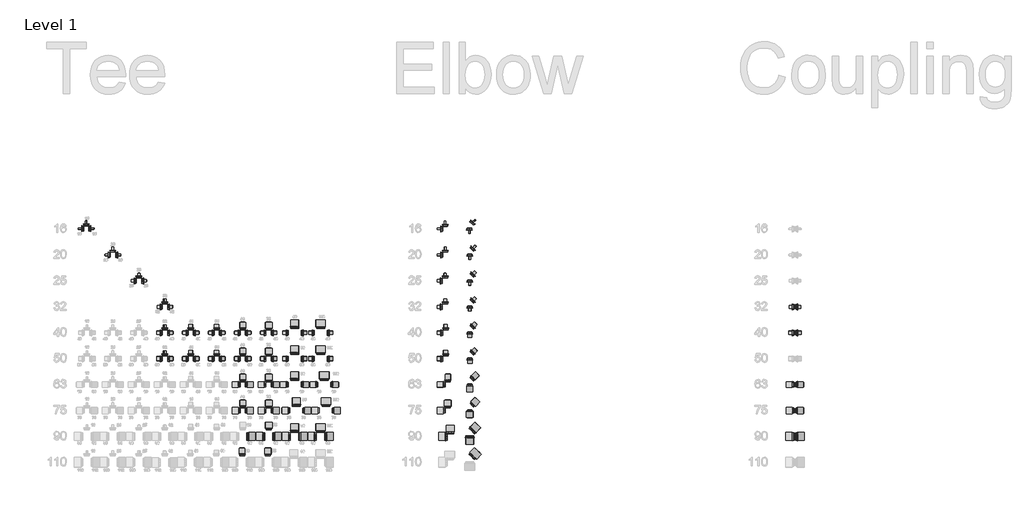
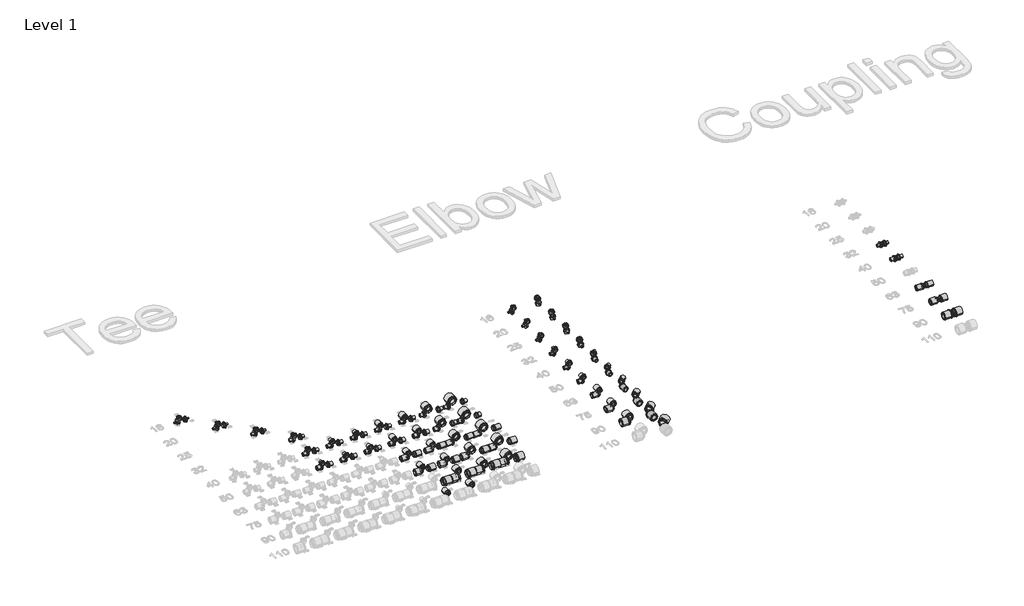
# One storey, part 3 of 58: 137 pipe fittings.
"""IFC4 building model written with IfcOpenShell, lengths in millimetres."""

from ifc_helpers import new_model, si_unit, origin, place, context, project, spatial, transform, mapped, element, save
from components import rs_adapter_8da40ca7, rs_adapter_b4bbd465, rs_adapter_f82712ed, rs_adapter_ef84fdb0, rs_adapter_c6cd646c, rs_adapter_ed761ce0, rs_adapter_634e7d73, rs_adapter_fc67200b, rs_adapter_b700a1d7, rs_adapter_1ad0a11d

model = new_model("IFC4")

# Units and contexts
model_context = context("Model", 3, world=origin())
ifc_project = project(units=[si_unit("LENGTHUNIT", "METRE", prefix="MILLI")], contexts=[model_context])

# Site, building, storey
site = spatial("IfcSite", under=ifc_project)
building = spatial("IfcBuilding", under=site)
storey = spatial("IfcBuildingStorey", under=building, Name="Level 1", Elevation=27.3876384)

# Pipe fittings
placement = place(None, origin())
rs_adapter_shape = rs_adapter_8da40ca7(model_context)
element("IfcPipeFitting", 1, ObjectType="RS Adapter : Superpipe RS Press Adapter", at=placement, inside=storey, context=model_context, shape_type="MappedRepresentation", body=[
    mapped(rs_adapter_shape, transform((15965.8568613, 16294.8081159, 27.3876384), x_axis=(0.0, 1.0000000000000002, 0.0), y_axis=(1.0000000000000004, 0.0, 0.0), z_axis=(0.0, 0.0, -1.0000000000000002))),
])
element("IfcPipeFitting", 2, ObjectType="RS Adapter : Superpipe RS Press Adapter", at=placement, inside=storey, context=model_context, shape_type="MappedRepresentation", body=[
    mapped(rs_adapter_shape, transform((15965.8568613, 17494.8081159, 27.3876384), x_axis=(0.0, 1.0000000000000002, 0.0), y_axis=(1.0000000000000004, 0.0, 0.0), z_axis=(0.0, 0.0, -1.0000000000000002))),
])
element("IfcPipeFitting", 3, ObjectType="RS Adapter : Superpipe RS Press Adapter", at=placement, inside=storey, context=model_context, shape_type="MappedRepresentation", body=[
    mapped(rs_adapter_shape, transform((15965.8568613, 17194.8081159, 27.3876384), x_axis=(0.0, 1.0000000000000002, 0.0), y_axis=(1.0000000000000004, 0.0, 0.0), z_axis=(0.0, 0.0, -1.0000000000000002))),
])
element("IfcPipeFitting", 4, ObjectType="RS Adapter : Superpipe RS Press Adapter", at=placement, inside=storey, context=model_context, shape_type="MappedRepresentation", body=[
    mapped(rs_adapter_shape, transform((16007.843642, 16894.8081159, 27.3876384), x_axis=(0.0, 1.0000000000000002, 0.0), y_axis=(1.0000000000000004, 0.0, 0.0), z_axis=(0.0, 0.0, -1.0000000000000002))),
])
element("IfcPipeFitting", 5, ObjectType="RS Adapter : Superpipe RS Press Adapter", at=placement, inside=storey, context=model_context, shape_type="MappedRepresentation", body=[
    mapped(rs_adapter_shape, transform((16027.8568613, 16594.8081159, 27.3876384), x_axis=(0.0, 1.0000000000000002, 0.0), y_axis=(1.0000000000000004, 0.0, 0.0), z_axis=(0.0, 0.0, -1.0000000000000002))),
])
element("IfcPipeFitting", 6, ObjectType="RS Adapter : Superpipe RS Press Adapter", at=placement, inside=storey, context=model_context, shape_type="MappedRepresentation", body=[
    mapped(rs_adapter_shape, transform((17713.0198773, 16009.6140039, 27.3876384), x_axis=(0.7071067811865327, 0.707106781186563, 0.0), y_axis=(-0.7071067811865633, 0.707106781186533, 0.0), z_axis=(0.0, 0.0, 1.0000000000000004))),
])
rs_adapter_2_shape = rs_adapter_b4bbd465(model_context)
element("IfcPipeFitting", 7, ObjectType="RS Adapter : Superpipe RS Press Adapter", at=placement, inside=storey, context=model_context, shape_type="MappedRepresentation", body=[
    mapped(rs_adapter_2_shape, transform((13226.6015571, 18650.4212972, 27.3876384), x_axis=(-1.0, 0.0, 0.0), y_axis=(0.0, 1.0, 0.0), z_axis=(0.0, 0.0, -1.0))),
])
element("IfcPipeFitting", 8, ObjectType="RS Adapter : Superpipe RS Press Adapter", at=placement, inside=storey, context=model_context, shape_type="MappedRepresentation", body=[
    mapped(rs_adapter_2_shape, transform((13257.6015571, 18681.4212972, 27.3876384), x_axis=(0.0, 1.0000000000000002, 0.0), y_axis=(1.0000000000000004, 0.0, 0.0), z_axis=(0.0, 0.0, -1.0000000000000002))),
])
element("IfcPipeFitting", 9, ObjectType="RS Adapter : Superpipe RS Press Adapter", at=placement, inside=storey, context=model_context, shape_type="MappedRepresentation", body=[
    mapped(rs_adapter_2_shape, transform((13288.6015571, 18650.4212972, 27.3876384), x_axis=(1.0000000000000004, 0.0, 0.0), y_axis=(0.0, -1.0000000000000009, 0.0), z_axis=(0.0, 0.0, -1.0000000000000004))),
])
element("IfcPipeFitting", 10, ObjectType="RS Adapter : Superpipe RS Press Adapter", at=placement, inside=storey, context=model_context, shape_type="MappedRepresentation", body=[
    mapped(rs_adapter_2_shape, transform((17405.8568613, 18677.8081159, 27.3876384), x_axis=(0.0, 1.000000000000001, 0.0), y_axis=(-1.0000000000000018, 0.0, 0.0), z_axis=(0.0, 0.0, 1.0000000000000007))),
])
element("IfcPipeFitting", 11, ObjectType="RS Adapter : Superpipe RS Press Adapter", at=placement, inside=storey, context=model_context, shape_type="MappedRepresentation", body=[
    mapped(rs_adapter_2_shape, transform((17374.8568613, 18646.8081159, 27.3876384), x_axis=(-1.0000000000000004, 0.0, 0.0), y_axis=(0.0, -1.0000000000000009, 0.0), z_axis=(0.0, 0.0, 1.0000000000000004))),
])
element("IfcPipeFitting", 12, ObjectType="RS Adapter : Superpipe RS Press Adapter", at=placement, inside=storey, context=model_context, shape_type="MappedRepresentation", body=[
    mapped(rs_adapter_2_shape, transform((17685.7955265, 18654.8896532, 27.3876384), x_axis=(0.0, -1.000000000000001, 0.0), y_axis=(1.0000000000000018, 0.0, 0.0), z_axis=(0.0, 0.0, 1.0000000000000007))),
])
element("IfcPipeFitting", 13, ObjectType="RS Adapter : Superpipe RS Press Adapter", at=placement, inside=storey, context=model_context, shape_type="MappedRepresentation", body=[
    mapped(rs_adapter_2_shape, transform((17709.5198773, 18709.6140039, 27.3876384), x_axis=(0.7071067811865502, 0.7071067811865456, 0.0), y_axis=(-0.7071067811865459, 0.7071067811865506, 0.0), z_axis=(0.0, 0.0, 1.0000000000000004))),
])
rs_adapter_3_shape = rs_adapter_f82712ed(model_context)
element("IfcPipeFitting", 14, ObjectType="RS Adapter : Superpipe RS Press Adapter", at=placement, inside=storey, context=model_context, shape_type="MappedRepresentation", body=[
    mapped(rs_adapter_3_shape, transform((13534.8568613, 18346.8081159, 27.3876384), x_axis=(-1.0, 0.0, 0.0), y_axis=(0.0, 1.0, 0.0), z_axis=(0.0, 0.0, -1.0))),
])
element("IfcPipeFitting", 15, ObjectType="RS Adapter : Superpipe RS Press Adapter", at=placement, inside=storey, context=model_context, shape_type="MappedRepresentation", body=[
    mapped(rs_adapter_3_shape, transform((13565.8568613, 18377.8081159, 27.3876384), x_axis=(0.0, 1.0000000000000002, 0.0), y_axis=(1.0000000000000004, 0.0, 0.0), z_axis=(0.0, 0.0, -1.0000000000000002))),
])
element("IfcPipeFitting", 16, ObjectType="RS Adapter : Superpipe RS Press Adapter", at=placement, inside=storey, context=model_context, shape_type="MappedRepresentation", body=[
    mapped(rs_adapter_3_shape, transform((13596.8568613, 18346.8081159, 27.3876384), x_axis=(1.0000000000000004, 0.0, 0.0), y_axis=(0.0, -1.0000000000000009, 0.0), z_axis=(0.0, 0.0, -1.0000000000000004))),
])
element("IfcPipeFitting", 17, ObjectType="RS Adapter : Superpipe RS Press Adapter", at=placement, inside=storey, context=model_context, shape_type="MappedRepresentation", body=[
    mapped(rs_adapter_3_shape, transform((17406.8568613, 18377.8081159, 27.3876384), x_axis=(0.0, 1.000000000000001, 0.0), y_axis=(-1.0000000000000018, 0.0, 0.0), z_axis=(0.0, 0.0, 1.0000000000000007))),
])
element("IfcPipeFitting", 18, ObjectType="RS Adapter : Superpipe RS Press Adapter", at=placement, inside=storey, context=model_context, shape_type="MappedRepresentation", body=[
    mapped(rs_adapter_3_shape, transform((17375.8568613, 18346.8081159, 27.3876384), x_axis=(-1.0000000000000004, 0.0, 0.0), y_axis=(0.0, -1.0000000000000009, 0.0), z_axis=(0.0, 0.0, 1.0000000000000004))),
])
element("IfcPipeFitting", 19, ObjectType="RS Adapter : Superpipe RS Press Adapter", at=placement, inside=storey, context=model_context, shape_type="MappedRepresentation", body=[
    mapped(rs_adapter_3_shape, transform((17689.2955265, 18354.8896532, 27.3876384), x_axis=(0.0, -1.000000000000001, 0.0), y_axis=(1.0000000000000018, 0.0, 0.0), z_axis=(0.0, 0.0, 1.0000000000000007))),
])
element("IfcPipeFitting", 20, ObjectType="RS Adapter : Superpipe RS Press Adapter", at=placement, inside=storey, context=model_context, shape_type="MappedRepresentation", body=[
    mapped(rs_adapter_3_shape, transform((17713.0198773, 18409.6140039, 27.3876384), x_axis=(0.7071067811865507, 0.7071067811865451, 0.0), y_axis=(-0.7071067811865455, 0.707106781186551, 0.0), z_axis=(0.0, 0.0, 1.0000000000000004))),
])
rs_adapter_4_shape = rs_adapter_ef84fdb0(model_context)
element("IfcPipeFitting", 21, ObjectType="RS Adapter : Superpipe RS Press Adapter", at=placement, inside=storey, context=model_context, shape_type="MappedRepresentation", body=[
    mapped(rs_adapter_4_shape, transform((13834.8568613, 18046.8081159, 27.3876384), x_axis=(-1.0, 0.0, 0.0), y_axis=(0.0, 1.0, 0.0), z_axis=(0.0, 0.0, -1.0))),
])
element("IfcPipeFitting", 22, ObjectType="RS Adapter : Superpipe RS Press Adapter", at=placement, inside=storey, context=model_context, shape_type="MappedRepresentation", body=[
    mapped(rs_adapter_4_shape, transform((13865.8568613, 18077.8081159, 27.3876384), x_axis=(0.0, 1.0000000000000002, 0.0), y_axis=(1.0000000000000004, 0.0, 0.0), z_axis=(0.0, 0.0, -1.0000000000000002))),
])
element("IfcPipeFitting", 23, ObjectType="RS Adapter : Superpipe RS Press Adapter", at=placement, inside=storey, context=model_context, shape_type="MappedRepresentation", body=[
    mapped(rs_adapter_4_shape, transform((13896.8568613, 18046.8081159, 27.3876384), x_axis=(1.0000000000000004, 0.0, 0.0), y_axis=(0.0, -1.0000000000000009, 0.0), z_axis=(0.0, 0.0, -1.0000000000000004))),
])
element("IfcPipeFitting", 24, ObjectType="RS Adapter : Superpipe RS Press Adapter", at=placement, inside=storey, context=model_context, shape_type="MappedRepresentation", body=[
    mapped(rs_adapter_4_shape, transform((17403.8568613, 18077.8081159, 27.3876384), x_axis=(0.0, 1.000000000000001, 0.0), y_axis=(-1.0000000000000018, 0.0, 0.0), z_axis=(0.0, 0.0, 1.0000000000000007))),
])
element("IfcPipeFitting", 25, ObjectType="RS Adapter : Superpipe RS Press Adapter", at=placement, inside=storey, context=model_context, shape_type="MappedRepresentation", body=[
    mapped(rs_adapter_4_shape, transform((17372.8568613, 18046.8081159, 27.3876384), x_axis=(-1.0000000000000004, 0.0, 0.0), y_axis=(0.0, -1.0000000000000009, 0.0), z_axis=(0.0, 0.0, 1.0000000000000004))),
])
element("IfcPipeFitting", 26, ObjectType="RS Adapter : Superpipe RS Press Adapter", at=placement, inside=storey, context=model_context, shape_type="MappedRepresentation", body=[
    mapped(rs_adapter_4_shape, transform((17689.2955265, 18054.8896532, 27.3876384), x_axis=(0.0, -1.0000000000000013, 0.0), y_axis=(1.0000000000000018, 0.0, 0.0), z_axis=(0.0, 0.0, 1.0000000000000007))),
])
element("IfcPipeFitting", 27, ObjectType="RS Adapter : Superpipe RS Press Adapter", at=placement, inside=storey, context=model_context, shape_type="MappedRepresentation", body=[
    mapped(rs_adapter_4_shape, transform((17713.0198773, 18109.6140039, 27.3876384), x_axis=(0.7071067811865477, 0.7071067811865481, 0.0), y_axis=(-0.7071067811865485, 0.707106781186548, 0.0), z_axis=(0.0, 0.0, 1.0000000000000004))),
])
rs_adapter_5_shape = rs_adapter_c6cd646c(model_context)
element("IfcPipeFitting", 28, ObjectType="RS Adapter : Superpipe RS Press Adapter", at=placement, inside=storey, context=model_context, shape_type="MappedRepresentation", body=[
    mapped(rs_adapter_5_shape, transform((15113.8568613, 16246.8081159, 27.3876384), x_axis=(1.0000000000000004, 0.0, 0.0), y_axis=(0.0, -1.0000000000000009, 0.0), z_axis=(0.0, 0.0, -1.0000000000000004))),
])
element("IfcPipeFitting", 29, ObjectType="RS Adapter : Superpipe RS Press Adapter", at=placement, inside=storey, context=model_context, shape_type="MappedRepresentation", body=[
    mapped(rs_adapter_5_shape, transform((15317.8568613, 16246.8081159, 27.3876384), x_axis=(-1.0, 0.0, 0.0), y_axis=(0.0, 1.0, 0.0), z_axis=(0.0, 0.0, -1.0))),
])
element("IfcPipeFitting", 30, ObjectType="RS Adapter : Superpipe RS Press Adapter", at=placement, inside=storey, context=model_context, shape_type="MappedRepresentation", body=[
    mapped(rs_adapter_5_shape, transform((15413.8568613, 16246.8081159, 27.3876384), x_axis=(1.0000000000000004, 0.0, 0.0), y_axis=(0.0, -1.0000000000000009, 0.0), z_axis=(0.0, 0.0, -1.0000000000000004))),
])
element("IfcPipeFitting", 31, ObjectType="RS Adapter : Superpipe RS Press Adapter", at=placement, inside=storey, context=model_context, shape_type="MappedRepresentation", body=[
    mapped(rs_adapter_5_shape, transform((15617.8568613, 16246.8081159, 27.3876384), x_axis=(-1.0, 0.0, 0.0), y_axis=(0.0, 1.0, 0.0), z_axis=(0.0, 0.0, -1.0))),
])
element("IfcPipeFitting", 32, ObjectType="RS Adapter : Superpipe RS Press Adapter", at=placement, inside=storey, context=model_context, shape_type="MappedRepresentation", body=[
    mapped(rs_adapter_5_shape, transform((15665.8568613, 16294.8081159, 27.3876384), x_axis=(0.0, 1.0000000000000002, 0.0), y_axis=(1.0000000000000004, 0.0, 0.0), z_axis=(0.0, 0.0, -1.0000000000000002))),
])
element("IfcPipeFitting", 33, ObjectType="RS Adapter : Superpipe RS Press Adapter", at=placement, inside=storey, context=model_context, shape_type="MappedRepresentation", body=[
    mapped(rs_adapter_5_shape, transform((15713.8568613, 16246.8081159, 27.3876384), x_axis=(1.0000000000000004, 0.0, 0.0), y_axis=(0.0, -1.0000000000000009, 0.0), z_axis=(0.0, 0.0, -1.0000000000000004))),
])
element("IfcPipeFitting", 34, ObjectType="RS Adapter : Superpipe RS Press Adapter", at=placement, inside=storey, context=model_context, shape_type="MappedRepresentation", body=[
    mapped(rs_adapter_5_shape, transform((15917.8568613, 16246.8081159, 27.3876384), x_axis=(-1.0, 0.0, 0.0), y_axis=(0.0, 1.0, 0.0), z_axis=(0.0, 0.0, -1.0))),
])
element("IfcPipeFitting", 35, ObjectType="RS Adapter : Superpipe RS Press Adapter", at=placement, inside=storey, context=model_context, shape_type="MappedRepresentation", body=[
    mapped(rs_adapter_5_shape, transform((16013.8568613, 16246.8081159, 27.3876384), x_axis=(1.0000000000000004, 0.0, 0.0), y_axis=(0.0, -1.0000000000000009, 0.0), z_axis=(0.0, 0.0, -1.0000000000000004))),
])
element("IfcPipeFitting", 36, ObjectType="RS Adapter : Superpipe RS Press Adapter", at=placement, inside=storey, context=model_context, shape_type="MappedRepresentation", body=[
    mapped(rs_adapter_5_shape, transform((15685.8568613, 16594.8081159, 27.3876384), x_axis=(0.0, 1.0000000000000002, 0.0), y_axis=(1.0000000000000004, 0.0, 0.0), z_axis=(0.0, 0.0, -1.0000000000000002))),
])
element("IfcPipeFitting", 37, ObjectType="RS Adapter : Superpipe RS Press Adapter", at=placement, inside=storey, context=model_context, shape_type="MappedRepresentation", body=[
    mapped(rs_adapter_5_shape, transform((15665.8568613, 17494.8081159, 27.3876384), x_axis=(0.0, 1.0000000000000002, 0.0), y_axis=(1.0000000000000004, 0.0, 0.0), z_axis=(0.0, 0.0, -1.0000000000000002))),
])
element("IfcPipeFitting", 38, ObjectType="RS Adapter : Superpipe RS Press Adapter", at=placement, inside=storey, context=model_context, shape_type="MappedRepresentation", body=[
    mapped(rs_adapter_5_shape, transform((15665.8568613, 17194.8081159, 27.3876384), x_axis=(0.0, 1.0000000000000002, 0.0), y_axis=(1.0000000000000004, 0.0, 0.0), z_axis=(0.0, 0.0, -1.0000000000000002))),
])
element("IfcPipeFitting", 39, ObjectType="RS Adapter : Superpipe RS Press Adapter", at=placement, inside=storey, context=model_context, shape_type="MappedRepresentation", body=[
    mapped(rs_adapter_5_shape, transform((15665.8568613, 16894.8081159, 27.3876384), x_axis=(0.0, 1.0000000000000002, 0.0), y_axis=(1.0000000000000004, 0.0, 0.0), z_axis=(0.0, 0.0, -1.0000000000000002))),
])
element("IfcPipeFitting", 40, ObjectType="RS Adapter : Superpipe RS Press Adapter", at=placement, inside=storey, context=model_context, shape_type="MappedRepresentation", body=[
    mapped(rs_adapter_5_shape, transform((21437.9646899, 16246.8081159, 27.3876384), x_axis=(-1.0000000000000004, 0.0, 0.0), y_axis=(0.0, 1.0000000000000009, 0.0), z_axis=(0.0, 0.0, -1.0000000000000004))),
])
element("IfcPipeFitting", 41, ObjectType="RS Adapter : Superpipe RS Press Adapter", at=placement, inside=storey, context=model_context, shape_type="MappedRepresentation", body=[
    mapped(rs_adapter_5_shape, transform((21455.9646899, 16246.8081159, 27.3876384), x_axis=(1.0000000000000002, 0.0, 0.0), y_axis=(0.0, -1.0000000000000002, 0.0), z_axis=(0.0, 0.0, -1.0))),
])
element("IfcPipeFitting", 42, ObjectType="RS Adapter : Superpipe RS Press Adapter", at=placement, inside=storey, context=model_context, shape_type="MappedRepresentation", body=[
    mapped(rs_adapter_5_shape, transform((17461.3568613, 16277.8081159, 27.3876384), x_axis=(0.0, 1.000000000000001, 0.0), y_axis=(-1.0000000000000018, 0.0, 0.0), z_axis=(0.0, 0.0, 1.0000000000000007))),
])
element("IfcPipeFitting", 43, ObjectType="RS Adapter : Superpipe RS Press Adapter", at=placement, inside=storey, context=model_context, shape_type="MappedRepresentation", body=[
    mapped(rs_adapter_5_shape, transform((17430.3568613, 16246.8081159, 27.3876384), x_axis=(-1.0000000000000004, 0.0, 0.0), y_axis=(0.0, -1.0000000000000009, 0.0), z_axis=(0.0, 0.0, 1.0000000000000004))),
])
element("IfcPipeFitting", 44, ObjectType="RS Adapter : Superpipe RS Press Adapter", at=placement, inside=storey, context=model_context, shape_type="MappedRepresentation", body=[
    mapped(rs_adapter_5_shape, transform((17689.2955265, 16254.8896532, 27.3876384), x_axis=(0.0, -1.000000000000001, 0.0), y_axis=(1.0000000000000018, 0.0, 0.0), z_axis=(0.0, 0.0, 1.0000000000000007))),
])
element("IfcPipeFitting", 45, ObjectType="RS Adapter : Superpipe RS Press Adapter", at=placement, inside=storey, context=model_context, shape_type="MappedRepresentation", body=[
    mapped(rs_adapter_5_shape, transform((17713.0198773, 16309.6140039, 27.3876384), x_axis=(0.7071067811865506, 0.7071067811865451, 0.0), y_axis=(-0.7071067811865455, 0.7071067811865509, 0.0), z_axis=(0.0, 0.0, 1.0000000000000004))),
])
rs_adapter_6_shape = rs_adapter_ed761ce0(model_context)
element("IfcPipeFitting", 46, ObjectType="RS Adapter : Superpipe RS Press Adapter", at=placement, inside=storey, context=model_context, shape_type="MappedRepresentation", body=[
    mapped(rs_adapter_6_shape, transform((14134.8568613, 17746.8081159, 27.3876384), x_axis=(-1.0, 0.0, 0.0), y_axis=(0.0, 1.0, 0.0), z_axis=(0.0, 0.0, -1.0))),
])
element("IfcPipeFitting", 47, ObjectType="RS Adapter : Superpipe RS Press Adapter", at=placement, inside=storey, context=model_context, shape_type="MappedRepresentation", body=[
    mapped(rs_adapter_6_shape, transform((14165.8568613, 17777.8081159, 27.3876384), x_axis=(0.0, 1.0000000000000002, 0.0), y_axis=(1.0000000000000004, 0.0, 0.0), z_axis=(0.0, 0.0, -1.0000000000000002))),
])
element("IfcPipeFitting", 48, ObjectType="RS Adapter : Superpipe RS Press Adapter", at=placement, inside=storey, context=model_context, shape_type="MappedRepresentation", body=[
    mapped(rs_adapter_6_shape, transform((14196.8568613, 17746.8081159, 27.3876384), x_axis=(1.0000000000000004, 0.0, 0.0), y_axis=(0.0, -1.0000000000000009, 0.0), z_axis=(0.0, 0.0, -1.0000000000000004))),
])
element("IfcPipeFitting", 49, ObjectType="RS Adapter : Superpipe RS Press Adapter", at=placement, inside=storey, context=model_context, shape_type="MappedRepresentation", body=[
    mapped(rs_adapter_6_shape, transform((14165.8568613, 17477.8081159, 27.3876384), x_axis=(0.0, 1.0000000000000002, 0.0), y_axis=(1.0000000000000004, 0.0, 0.0), z_axis=(0.0, 0.0, -1.0000000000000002))),
])
element("IfcPipeFitting", 50, ObjectType="RS Adapter : Superpipe RS Press Adapter", at=placement, inside=storey, context=model_context, shape_type="MappedRepresentation", body=[
    mapped(rs_adapter_6_shape, transform((14165.8568613, 17177.8081159, 27.3876384), x_axis=(0.0, 1.0000000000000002, 0.0), y_axis=(1.0000000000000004, 0.0, 0.0), z_axis=(0.0, 0.0, -1.0000000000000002))),
])
element("IfcPipeFitting", 51, ObjectType="RS Adapter : Superpipe RS Press Adapter", at=placement, inside=storey, context=model_context, shape_type="MappedRepresentation", body=[
    mapped(rs_adapter_6_shape, transform((21455.9646899, 17746.8081159, 27.3876384), x_axis=(1.0000000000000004, 0.0, 0.0), y_axis=(0.0, -1.0000000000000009, 0.0), z_axis=(0.0, 0.0, -1.0000000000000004))),
])
element("IfcPipeFitting", 52, ObjectType="RS Adapter : Superpipe RS Press Adapter", at=placement, inside=storey, context=model_context, shape_type="MappedRepresentation", body=[
    mapped(rs_adapter_6_shape, transform((21437.9646899, 17746.8081159, 27.3876384), x_axis=(-1.0000000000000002, 0.0, 0.0), y_axis=(0.0, 1.0000000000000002, 0.0), z_axis=(0.0, 0.0, -1.0))),
])
element("IfcPipeFitting", 53, ObjectType="RS Adapter : Superpipe RS Press Adapter", at=placement, inside=storey, context=model_context, shape_type="MappedRepresentation", body=[
    mapped(rs_adapter_6_shape, transform((17403.8568613, 17777.8081159, 27.3876384), x_axis=(0.0, 1.000000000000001, 0.0), y_axis=(-1.0000000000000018, 0.0, 0.0), z_axis=(0.0, 0.0, 1.0000000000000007))),
])
element("IfcPipeFitting", 54, ObjectType="RS Adapter : Superpipe RS Press Adapter", at=placement, inside=storey, context=model_context, shape_type="MappedRepresentation", body=[
    mapped(rs_adapter_6_shape, transform((17372.8568613, 17746.8081159, 27.3876384), x_axis=(-1.0000000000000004, 0.0, 0.0), y_axis=(0.0, -1.0000000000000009, 0.0), z_axis=(0.0, 0.0, 1.0000000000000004))),
])
element("IfcPipeFitting", 55, ObjectType="RS Adapter : Superpipe RS Press Adapter", at=placement, inside=storey, context=model_context, shape_type="MappedRepresentation", body=[
    mapped(rs_adapter_6_shape, transform((17689.2955265, 17754.8896532, 27.3876384), x_axis=(0.0, -1.000000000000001, 0.0), y_axis=(1.0000000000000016, 0.0, 0.0), z_axis=(0.0, 0.0, 1.0000000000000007))),
])
element("IfcPipeFitting", 56, ObjectType="RS Adapter : Superpipe RS Press Adapter", at=placement, inside=storey, context=model_context, shape_type="MappedRepresentation", body=[
    mapped(rs_adapter_6_shape, transform((17713.0198773, 17809.6140039, 27.3876384), x_axis=(0.7071067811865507, 0.707106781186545, 0.0), y_axis=(-0.7071067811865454, 0.707106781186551, 0.0), z_axis=(0.0, 0.0, 1.0000000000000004))),
])
rs_adapter_7_shape = rs_adapter_634e7d73(model_context)
element("IfcPipeFitting", 57, ObjectType="RS Adapter : Superpipe RS Press Adapter", at=placement, inside=storey, context=model_context, shape_type="MappedRepresentation", body=[
    mapped(rs_adapter_7_shape, transform((14434.8568613, 17446.8081159, 27.3876384), x_axis=(-1.0, 0.0, 0.0), y_axis=(0.0, 1.0, 0.0), z_axis=(0.0, 0.0, -1.0))),
])
element("IfcPipeFitting", 58, ObjectType="RS Adapter : Superpipe RS Press Adapter", at=placement, inside=storey, context=model_context, shape_type="MappedRepresentation", body=[
    mapped(rs_adapter_7_shape, transform((14465.8568613, 17477.8081159, 27.3876384), x_axis=(0.0, 1.0000000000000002, 0.0), y_axis=(1.0000000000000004, 0.0, 0.0), z_axis=(0.0, 0.0, -1.0000000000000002))),
])
element("IfcPipeFitting", 59, ObjectType="RS Adapter : Superpipe RS Press Adapter", at=placement, inside=storey, context=model_context, shape_type="MappedRepresentation", body=[
    mapped(rs_adapter_7_shape, transform((14496.8568613, 17446.8081159, 27.3876384), x_axis=(1.0000000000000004, 0.0, 0.0), y_axis=(0.0, -1.0000000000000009, 0.0), z_axis=(0.0, 0.0, -1.0000000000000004))),
])
element("IfcPipeFitting", 60, ObjectType="RS Adapter : Superpipe RS Press Adapter", at=placement, inside=storey, context=model_context, shape_type="MappedRepresentation", body=[
    mapped(rs_adapter_7_shape, transform((14134.8568613, 17446.8081159, 27.3876384), x_axis=(-1.0, 0.0, 0.0), y_axis=(0.0, 1.0, 0.0), z_axis=(0.0, 0.0, -1.0))),
])
element("IfcPipeFitting", 61, ObjectType="RS Adapter : Superpipe RS Press Adapter", at=placement, inside=storey, context=model_context, shape_type="MappedRepresentation", body=[
    mapped(rs_adapter_7_shape, transform((14196.8568613, 17446.8081159, 27.3876384), x_axis=(1.0000000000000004, 0.0, 0.0), y_axis=(0.0, -1.0000000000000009, 0.0), z_axis=(0.0, 0.0, -1.0000000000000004))),
])
element("IfcPipeFitting", 62, ObjectType="RS Adapter : Superpipe RS Press Adapter", at=placement, inside=storey, context=model_context, shape_type="MappedRepresentation", body=[
    mapped(rs_adapter_7_shape, transform((14734.8568613, 17446.8081159, 27.3876384), x_axis=(-1.0, 0.0, 0.0), y_axis=(0.0, 1.0, 0.0), z_axis=(0.0, 0.0, -1.0))),
])
element("IfcPipeFitting", 63, ObjectType="RS Adapter : Superpipe RS Press Adapter", at=placement, inside=storey, context=model_context, shape_type="MappedRepresentation", body=[
    mapped(rs_adapter_7_shape, transform((14796.8568613, 17446.8081159, 27.3876384), x_axis=(1.0000000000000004, 0.0, 0.0), y_axis=(0.0, -1.0000000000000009, 0.0), z_axis=(0.0, 0.0, -1.0000000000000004))),
])
element("IfcPipeFitting", 64, ObjectType="RS Adapter : Superpipe RS Press Adapter", at=placement, inside=storey, context=model_context, shape_type="MappedRepresentation", body=[
    mapped(rs_adapter_7_shape, transform((15034.8568613, 17446.8081159, 27.3876384), x_axis=(-1.0, 0.0, 0.0), y_axis=(0.0, 1.0, 0.0), z_axis=(0.0, 0.0, -1.0))),
])
element("IfcPipeFitting", 65, ObjectType="RS Adapter : Superpipe RS Press Adapter", at=placement, inside=storey, context=model_context, shape_type="MappedRepresentation", body=[
    mapped(rs_adapter_7_shape, transform((15096.8568613, 17446.8081159, 27.3876384), x_axis=(1.0000000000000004, 0.0, 0.0), y_axis=(0.0, -1.0000000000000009, 0.0), z_axis=(0.0, 0.0, -1.0000000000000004))),
])
element("IfcPipeFitting", 66, ObjectType="RS Adapter : Superpipe RS Press Adapter", at=placement, inside=storey, context=model_context, shape_type="MappedRepresentation", body=[
    mapped(rs_adapter_7_shape, transform((15334.8568613, 17446.8081159, 27.3876384), x_axis=(-1.0, 0.0, 0.0), y_axis=(0.0, 1.0, 0.0), z_axis=(0.0, 0.0, -1.0))),
])
element("IfcPipeFitting", 67, ObjectType="RS Adapter : Superpipe RS Press Adapter", at=placement, inside=storey, context=model_context, shape_type="MappedRepresentation", body=[
    mapped(rs_adapter_7_shape, transform((15396.8568613, 17446.8081159, 27.3876384), x_axis=(1.0000000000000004, 0.0, 0.0), y_axis=(0.0, -1.0000000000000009, 0.0), z_axis=(0.0, 0.0, -1.0000000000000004))),
])
element("IfcPipeFitting", 68, ObjectType="RS Adapter : Superpipe RS Press Adapter", at=placement, inside=storey, context=model_context, shape_type="MappedRepresentation", body=[
    mapped(rs_adapter_7_shape, transform((15590.8568613, 17446.8081159, 27.3876384), x_axis=(-1.0, 0.0, 0.0), y_axis=(0.0, 1.0, 0.0), z_axis=(0.0, 0.0, -1.0))),
])
element("IfcPipeFitting", 69, ObjectType="RS Adapter : Superpipe RS Press Adapter", at=placement, inside=storey, context=model_context, shape_type="MappedRepresentation", body=[
    mapped(rs_adapter_7_shape, transform((15740.8568613, 17446.8081159, 27.3876384), x_axis=(1.0000000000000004, 0.0, 0.0), y_axis=(0.0, -1.0000000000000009, 0.0), z_axis=(0.0, 0.0, -1.0000000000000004))),
])
element("IfcPipeFitting", 70, ObjectType="RS Adapter : Superpipe RS Press Adapter", at=placement, inside=storey, context=model_context, shape_type="MappedRepresentation", body=[
    mapped(rs_adapter_7_shape, transform((15890.8568613, 17446.8081159, 27.3876384), x_axis=(-1.0, 0.0, 0.0), y_axis=(0.0, 1.0, 0.0), z_axis=(0.0, 0.0, -1.0))),
])
element("IfcPipeFitting", 71, ObjectType="RS Adapter : Superpipe RS Press Adapter", at=placement, inside=storey, context=model_context, shape_type="MappedRepresentation", body=[
    mapped(rs_adapter_7_shape, transform((16040.8568613, 17446.8081159, 27.3876384), x_axis=(1.0000000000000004, 0.0, 0.0), y_axis=(0.0, -1.0000000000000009, 0.0), z_axis=(0.0, 0.0, -1.0000000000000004))),
])
element("IfcPipeFitting", 72, ObjectType="RS Adapter : Superpipe RS Press Adapter", at=placement, inside=storey, context=model_context, shape_type="MappedRepresentation", body=[
    mapped(rs_adapter_7_shape, transform((14465.8568613, 17177.8081159, 27.3876384), x_axis=(0.0, 1.0000000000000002, 0.0), y_axis=(1.0000000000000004, 0.0, 0.0), z_axis=(0.0, 0.0, -1.0000000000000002))),
])
element("IfcPipeFitting", 73, ObjectType="RS Adapter : Superpipe RS Press Adapter", at=placement, inside=storey, context=model_context, shape_type="MappedRepresentation", body=[
    mapped(rs_adapter_7_shape, transform((21455.9646899, 17446.8081159, 27.3876384), x_axis=(1.0000000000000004, 0.0, 0.0), y_axis=(0.0, -1.0000000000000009, 0.0), z_axis=(0.0, 0.0, -1.0000000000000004))),
])
element("IfcPipeFitting", 74, ObjectType="RS Adapter : Superpipe RS Press Adapter", at=placement, inside=storey, context=model_context, shape_type="MappedRepresentation", body=[
    mapped(rs_adapter_7_shape, transform((21437.9646899, 17446.8081159, 27.3876384), x_axis=(-1.0000000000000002, 0.0, 0.0), y_axis=(0.0, 1.0000000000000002, 0.0), z_axis=(0.0, 0.0, -1.0))),
])
element("IfcPipeFitting", 75, ObjectType="RS Adapter : Superpipe RS Press Adapter", at=placement, inside=storey, context=model_context, shape_type="MappedRepresentation", body=[
    mapped(rs_adapter_7_shape, transform((17409.8568613, 17477.8081159, 27.3876384), x_axis=(0.0, 1.000000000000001, 0.0), y_axis=(-1.0000000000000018, 0.0, 0.0), z_axis=(0.0, 0.0, 1.0000000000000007))),
])
element("IfcPipeFitting", 76, ObjectType="RS Adapter : Superpipe RS Press Adapter", at=placement, inside=storey, context=model_context, shape_type="MappedRepresentation", body=[
    mapped(rs_adapter_7_shape, transform((17378.8568613, 17446.8081159, 27.3876384), x_axis=(-1.0000000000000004, 0.0, 0.0), y_axis=(0.0, -1.0000000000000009, 0.0), z_axis=(0.0, 0.0, 1.0000000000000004))),
])
element("IfcPipeFitting", 77, ObjectType="RS Adapter : Superpipe RS Press Adapter", at=placement, inside=storey, context=model_context, shape_type="MappedRepresentation", body=[
    mapped(rs_adapter_7_shape, transform((17689.2955265, 17454.8896532, 27.3876384), x_axis=(0.0, -1.000000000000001, 0.0), y_axis=(1.0000000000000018, 0.0, 0.0), z_axis=(0.0, 0.0, 1.0000000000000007))),
])
element("IfcPipeFitting", 78, ObjectType="RS Adapter : Superpipe RS Press Adapter", at=placement, inside=storey, context=model_context, shape_type="MappedRepresentation", body=[
    mapped(rs_adapter_7_shape, transform((17713.0198773, 17509.6140039, 27.3876384), x_axis=(0.7071067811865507, 0.7071067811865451, 0.0), y_axis=(-0.7071067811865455, 0.707106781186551, 0.0), z_axis=(0.0, 0.0, 1.0000000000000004))),
])
rs_adapter_8_shape = rs_adapter_fc67200b(model_context)
element("IfcPipeFitting", 79, ObjectType="RS Adapter : Superpipe RS Press Adapter", at=placement, inside=storey, context=model_context, shape_type="MappedRepresentation", body=[
    mapped(rs_adapter_8_shape, transform((14734.8568613, 17146.8081159, 27.3876384), x_axis=(-1.0, 0.0, 0.0), y_axis=(0.0, 1.0, 0.0), z_axis=(0.0, 0.0, -1.0))),
])
element("IfcPipeFitting", 80, ObjectType="RS Adapter : Superpipe RS Press Adapter", at=placement, inside=storey, context=model_context, shape_type="MappedRepresentation", body=[
    mapped(rs_adapter_8_shape, transform((14765.8568613, 17177.8081159, 27.3876384), x_axis=(0.0, 1.0000000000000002, 0.0), y_axis=(1.0000000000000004, 0.0, 0.0), z_axis=(0.0, 0.0, -1.0000000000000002))),
])
element("IfcPipeFitting", 81, ObjectType="RS Adapter : Superpipe RS Press Adapter", at=placement, inside=storey, context=model_context, shape_type="MappedRepresentation", body=[
    mapped(rs_adapter_8_shape, transform((14796.8568613, 17146.8081159, 27.3876384), x_axis=(1.0000000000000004, 0.0, 0.0), y_axis=(0.0, -1.0000000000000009, 0.0), z_axis=(0.0, 0.0, -1.0000000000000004))),
])
element("IfcPipeFitting", 82, ObjectType="RS Adapter : Superpipe RS Press Adapter", at=placement, inside=storey, context=model_context, shape_type="MappedRepresentation", body=[
    mapped(rs_adapter_8_shape, transform((14765.8568613, 17477.8081159, 27.3876384), x_axis=(0.0, 1.0000000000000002, 0.0), y_axis=(1.0000000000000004, 0.0, 0.0), z_axis=(0.0, 0.0, -1.0000000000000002))),
])
element("IfcPipeFitting", 83, ObjectType="RS Adapter : Superpipe RS Press Adapter", at=placement, inside=storey, context=model_context, shape_type="MappedRepresentation", body=[
    mapped(rs_adapter_8_shape, transform((14134.8568613, 17146.8081159, 27.3876384), x_axis=(-1.0, 0.0, 0.0), y_axis=(0.0, 1.0, 0.0), z_axis=(0.0, 0.0, -1.0))),
])
element("IfcPipeFitting", 84, ObjectType="RS Adapter : Superpipe RS Press Adapter", at=placement, inside=storey, context=model_context, shape_type="MappedRepresentation", body=[
    mapped(rs_adapter_8_shape, transform((14196.8568613, 17146.8081159, 27.3876384), x_axis=(1.0000000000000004, 0.0, 0.0), y_axis=(0.0, -1.0000000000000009, 0.0), z_axis=(0.0, 0.0, -1.0000000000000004))),
])
element("IfcPipeFitting", 85, ObjectType="RS Adapter : Superpipe RS Press Adapter", at=placement, inside=storey, context=model_context, shape_type="MappedRepresentation", body=[
    mapped(rs_adapter_8_shape, transform((14434.8568613, 17146.8081159, 27.3876384), x_axis=(-1.0, 0.0, 0.0), y_axis=(0.0, 1.0, 0.0), z_axis=(0.0, 0.0, -1.0))),
])
element("IfcPipeFitting", 86, ObjectType="RS Adapter : Superpipe RS Press Adapter", at=placement, inside=storey, context=model_context, shape_type="MappedRepresentation", body=[
    mapped(rs_adapter_8_shape, transform((14496.8568613, 17146.8081159, 27.3876384), x_axis=(1.0000000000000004, 0.0, 0.0), y_axis=(0.0, -1.0000000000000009, 0.0), z_axis=(0.0, 0.0, -1.0000000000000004))),
])
element("IfcPipeFitting", 87, ObjectType="RS Adapter : Superpipe RS Press Adapter", at=placement, inside=storey, context=model_context, shape_type="MappedRepresentation", body=[
    mapped(rs_adapter_8_shape, transform((15034.8568613, 17146.8081159, 27.3876384), x_axis=(-1.0, 0.0, 0.0), y_axis=(0.0, 1.0, 0.0), z_axis=(0.0, 0.0, -1.0))),
])
element("IfcPipeFitting", 88, ObjectType="RS Adapter : Superpipe RS Press Adapter", at=placement, inside=storey, context=model_context, shape_type="MappedRepresentation", body=[
    mapped(rs_adapter_8_shape, transform((15096.8568613, 17146.8081159, 27.3876384), x_axis=(1.0000000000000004, 0.0, 0.0), y_axis=(0.0, -1.0000000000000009, 0.0), z_axis=(0.0, 0.0, -1.0000000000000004))),
])
element("IfcPipeFitting", 89, ObjectType="RS Adapter : Superpipe RS Press Adapter", at=placement, inside=storey, context=model_context, shape_type="MappedRepresentation", body=[
    mapped(rs_adapter_8_shape, transform((15334.8568613, 17146.8081159, 27.3876384), x_axis=(-1.0, 0.0, 0.0), y_axis=(0.0, 1.0, 0.0), z_axis=(0.0, 0.0, -1.0))),
])
element("IfcPipeFitting", 90, ObjectType="RS Adapter : Superpipe RS Press Adapter", at=placement, inside=storey, context=model_context, shape_type="MappedRepresentation", body=[
    mapped(rs_adapter_8_shape, transform((15396.8568613, 17146.8081159, 27.3876384), x_axis=(1.0000000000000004, 0.0, 0.0), y_axis=(0.0, -1.0000000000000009, 0.0), z_axis=(0.0, 0.0, -1.0000000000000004))),
])
element("IfcPipeFitting", 91, ObjectType="RS Adapter : Superpipe RS Press Adapter", at=placement, inside=storey, context=model_context, shape_type="MappedRepresentation", body=[
    mapped(rs_adapter_8_shape, transform((15590.8568613, 17146.8081159, 27.3876384), x_axis=(-1.0, 0.0, 0.0), y_axis=(0.0, 1.0, 0.0), z_axis=(0.0, 0.0, -1.0))),
])
element("IfcPipeFitting", 92, ObjectType="RS Adapter : Superpipe RS Press Adapter", at=placement, inside=storey, context=model_context, shape_type="MappedRepresentation", body=[
    mapped(rs_adapter_8_shape, transform((15740.8568613, 17146.8081159, 27.3876384), x_axis=(1.0000000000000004, 0.0, 0.0), y_axis=(0.0, -1.0000000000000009, 0.0), z_axis=(0.0, 0.0, -1.0000000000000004))),
])
element("IfcPipeFitting", 93, ObjectType="RS Adapter : Superpipe RS Press Adapter", at=placement, inside=storey, context=model_context, shape_type="MappedRepresentation", body=[
    mapped(rs_adapter_8_shape, transform((15890.8568613, 17146.8081159, 27.3876384), x_axis=(-1.0, 0.0, 0.0), y_axis=(0.0, 1.0, 0.0), z_axis=(0.0, 0.0, -1.0))),
])
element("IfcPipeFitting", 94, ObjectType="RS Adapter : Superpipe RS Press Adapter", at=placement, inside=storey, context=model_context, shape_type="MappedRepresentation", body=[
    mapped(rs_adapter_8_shape, transform((16040.8568613, 17146.8081159, 27.3876384), x_axis=(1.0000000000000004, 0.0, 0.0), y_axis=(0.0, -1.0000000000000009, 0.0), z_axis=(0.0, 0.0, -1.0000000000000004))),
])
element("IfcPipeFitting", 95, ObjectType="RS Adapter : Superpipe RS Press Adapter", at=placement, inside=storey, context=model_context, shape_type="MappedRepresentation", body=[
    mapped(rs_adapter_8_shape, transform((17409.8568613, 17177.8081159, 27.3876384), x_axis=(0.0, 1.000000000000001, 0.0), y_axis=(-1.0000000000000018, 0.0, 0.0), z_axis=(0.0, 0.0, 1.0000000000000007))),
])
element("IfcPipeFitting", 96, ObjectType="RS Adapter : Superpipe RS Press Adapter", at=placement, inside=storey, context=model_context, shape_type="MappedRepresentation", body=[
    mapped(rs_adapter_8_shape, transform((17378.8568613, 17146.8081159, 27.3876384), x_axis=(-1.0000000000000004, 0.0, 0.0), y_axis=(0.0, -1.0000000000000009, 0.0), z_axis=(0.0, 0.0, 1.0000000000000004))),
])
element("IfcPipeFitting", 97, ObjectType="RS Adapter : Superpipe RS Press Adapter", at=placement, inside=storey, context=model_context, shape_type="MappedRepresentation", body=[
    mapped(rs_adapter_8_shape, transform((17689.2955265, 17154.8896532, 27.3876384), x_axis=(0.0, -1.0000000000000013, 0.0), y_axis=(1.0000000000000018, 0.0, 0.0), z_axis=(0.0, 0.0, 1.0000000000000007))),
])
element("IfcPipeFitting", 98, ObjectType="RS Adapter : Superpipe RS Press Adapter", at=placement, inside=storey, context=model_context, shape_type="MappedRepresentation", body=[
    mapped(rs_adapter_8_shape, transform((17713.0198773, 17209.6140039, 27.3876384), x_axis=(0.7071067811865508, 0.707106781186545, 0.0), y_axis=(-0.7071067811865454, 0.7071067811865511, 0.0), z_axis=(0.0, 0.0, 1.0000000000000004))),
])
rs_adapter_9_shape = rs_adapter_b700a1d7(model_context)
element("IfcPipeFitting", 99, ObjectType="RS Adapter : Superpipe RS Press Adapter", at=placement, inside=storey, context=model_context, shape_type="MappedRepresentation", body=[
    mapped(rs_adapter_9_shape, transform((15365.8568613, 16321.8081159, 27.3876384), x_axis=(0.0, 1.0000000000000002, 0.0), y_axis=(1.0000000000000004, 0.0, 0.0), z_axis=(0.0, 0.0, -1.0000000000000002))),
])
element("IfcPipeFitting", 100, ObjectType="RS Adapter : Superpipe RS Press Adapter", at=placement, inside=storey, context=model_context, shape_type="MappedRepresentation", body=[
    mapped(rs_adapter_9_shape, transform((15365.8568613, 16877.8081159, 27.3876384), x_axis=(0.0, 1.0000000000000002, 0.0), y_axis=(1.0000000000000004, 0.0, 0.0), z_axis=(0.0, 0.0, -1.0000000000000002))),
])
element("IfcPipeFitting", 101, ObjectType="RS Adapter : Superpipe RS Press Adapter", at=placement, inside=storey, context=model_context, shape_type="MappedRepresentation", body=[
    mapped(rs_adapter_9_shape, transform((15610.8568613, 16546.8081159, 27.3876384), x_axis=(-1.0, 0.0, 0.0), y_axis=(0.0, 1.0, 0.0), z_axis=(0.0, 0.0, -1.0))),
])
element("IfcPipeFitting", 102, ObjectType="RS Adapter : Superpipe RS Press Adapter", at=placement, inside=storey, context=model_context, shape_type="MappedRepresentation", body=[
    mapped(rs_adapter_9_shape, transform((15760.8568613, 16546.8081159, 27.3876384), x_axis=(1.0000000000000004, 0.0, 0.0), y_axis=(0.0, -1.0000000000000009, 0.0), z_axis=(0.0, 0.0, -1.0000000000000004))),
])
element("IfcPipeFitting", 103, ObjectType="RS Adapter : Superpipe RS Press Adapter", at=placement, inside=storey, context=model_context, shape_type="MappedRepresentation", body=[
    mapped(rs_adapter_9_shape, transform((15365.8568613, 17477.8081159, 27.3876384), x_axis=(0.0, 1.0000000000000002, 0.0), y_axis=(1.0000000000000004, 0.0, 0.0), z_axis=(0.0, 0.0, -1.0000000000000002))),
])
element("IfcPipeFitting", 104, ObjectType="RS Adapter : Superpipe RS Press Adapter", at=placement, inside=storey, context=model_context, shape_type="MappedRepresentation", body=[
    mapped(rs_adapter_9_shape, transform((15365.8568613, 17177.8081159, 27.3876384), x_axis=(0.0, 1.0000000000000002, 0.0), y_axis=(1.0000000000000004, 0.0, 0.0), z_axis=(0.0, 0.0, -1.0000000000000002))),
])
element("IfcPipeFitting", 105, ObjectType="RS Adapter : Superpipe RS Press Adapter", at=placement, inside=storey, context=model_context, shape_type="MappedRepresentation", body=[
    mapped(rs_adapter_9_shape, transform((15034.8568613, 16546.8081159, 27.3876384), x_axis=(-1.0, 0.0, 0.0), y_axis=(0.0, 1.0, 0.0), z_axis=(0.0, 0.0, -1.0))),
])
element("IfcPipeFitting", 106, ObjectType="RS Adapter : Superpipe RS Press Adapter", at=placement, inside=storey, context=model_context, shape_type="MappedRepresentation", body=[
    mapped(rs_adapter_9_shape, transform((15096.8568613, 16546.8081159, 27.3876384), x_axis=(1.0000000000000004, 0.0, 0.0), y_axis=(0.0, -1.0000000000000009, 0.0), z_axis=(0.0, 0.0, -1.0000000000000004))),
])
element("IfcPipeFitting", 107, ObjectType="RS Adapter : Superpipe RS Press Adapter", at=placement, inside=storey, context=model_context, shape_type="MappedRepresentation", body=[
    mapped(rs_adapter_9_shape, transform((15334.8568613, 16546.8081159, 27.3876384), x_axis=(-1.0, 0.0, 0.0), y_axis=(0.0, 1.0, 0.0), z_axis=(0.0, 0.0, -1.0))),
])
element("IfcPipeFitting", 108, ObjectType="RS Adapter : Superpipe RS Press Adapter", at=placement, inside=storey, context=model_context, shape_type="MappedRepresentation", body=[
    mapped(rs_adapter_9_shape, transform((15365.8568613, 16577.8081159, 27.3876384), x_axis=(0.0, 1.0000000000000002, 0.0), y_axis=(1.0000000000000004, 0.0, 0.0), z_axis=(0.0, 0.0, -1.0000000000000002))),
])
element("IfcPipeFitting", 109, ObjectType="RS Adapter : Superpipe RS Press Adapter", at=placement, inside=storey, context=model_context, shape_type="MappedRepresentation", body=[
    mapped(rs_adapter_9_shape, transform((15396.8568613, 16546.8081159, 27.3876384), x_axis=(1.0000000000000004, 0.0, 0.0), y_axis=(0.0, -1.0000000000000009, 0.0), z_axis=(0.0, 0.0, -1.0000000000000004))),
])
element("IfcPipeFitting", 110, ObjectType="RS Adapter : Superpipe RS Press Adapter", at=placement, inside=storey, context=model_context, shape_type="MappedRepresentation", body=[
    mapped(rs_adapter_9_shape, transform((15952.8568613, 16546.8081159, 27.3876384), x_axis=(-1.0, 0.0, 0.0), y_axis=(0.0, 1.0, 0.0), z_axis=(0.0, 0.0, -1.0))),
])
element("IfcPipeFitting", 111, ObjectType="RS Adapter : Superpipe RS Press Adapter", at=placement, inside=storey, context=model_context, shape_type="MappedRepresentation", body=[
    mapped(rs_adapter_9_shape, transform((16102.8568613, 16546.8081159, 27.3876384), x_axis=(1.0000000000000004, 0.0, 0.0), y_axis=(0.0, -1.0000000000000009, 0.0), z_axis=(0.0, 0.0, -1.0000000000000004))),
])
element("IfcPipeFitting", 112, ObjectType="RS Adapter : Superpipe RS Press Adapter", at=placement, inside=storey, context=model_context, shape_type="MappedRepresentation", body=[
    mapped(rs_adapter_9_shape, transform((21455.9646899, 16546.8081159, 27.3876384), x_axis=(1.0000000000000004, 0.0, 0.0), y_axis=(0.0, -1.0000000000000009, 0.0), z_axis=(0.0, 0.0, -1.0000000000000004))),
])
element("IfcPipeFitting", 113, ObjectType="RS Adapter : Superpipe RS Press Adapter", at=placement, inside=storey, context=model_context, shape_type="MappedRepresentation", body=[
    mapped(rs_adapter_9_shape, transform((21437.9646899, 16546.8081159, 27.3876384), x_axis=(-1.0000000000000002, 0.0, 0.0), y_axis=(0.0, 1.0000000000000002, 0.0), z_axis=(0.0, 0.0, -1.0))),
])
element("IfcPipeFitting", 114, ObjectType="RS Adapter : Superpipe RS Press Adapter", at=placement, inside=storey, context=model_context, shape_type="MappedRepresentation", body=[
    mapped(rs_adapter_9_shape, transform((17436.3568613, 16577.8081159, 27.3876384), x_axis=(0.0, 1.000000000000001, 0.0), y_axis=(-1.0000000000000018, 0.0, 0.0), z_axis=(0.0, 0.0, 1.0000000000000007))),
])
element("IfcPipeFitting", 115, ObjectType="RS Adapter : Superpipe RS Press Adapter", at=placement, inside=storey, context=model_context, shape_type="MappedRepresentation", body=[
    mapped(rs_adapter_9_shape, transform((17405.3568613, 16546.8081159, 27.3876384), x_axis=(-1.0000000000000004, 0.0, 0.0), y_axis=(0.0, -1.0000000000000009, 0.0), z_axis=(0.0, 0.0, 1.0000000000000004))),
])
element("IfcPipeFitting", 116, ObjectType="RS Adapter : Superpipe RS Press Adapter", at=placement, inside=storey, context=model_context, shape_type="MappedRepresentation", body=[
    mapped(rs_adapter_9_shape, transform((17689.2955265, 16554.8896532, 27.3876384), x_axis=(0.0, -1.000000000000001, 0.0), y_axis=(1.0000000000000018, 0.0, 0.0), z_axis=(0.0, 0.0, 1.0000000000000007))),
])
element("IfcPipeFitting", 117, ObjectType="RS Adapter : Superpipe RS Press Adapter", at=placement, inside=storey, context=model_context, shape_type="MappedRepresentation", body=[
    mapped(rs_adapter_9_shape, transform((17713.0198773, 16609.6140039, 27.3876384), x_axis=(0.7071067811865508, 0.7071067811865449, 0.0), y_axis=(-0.7071067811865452, 0.7071067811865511, 0.0), z_axis=(0.0, 0.0, 1.0000000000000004))),
])
element("IfcPipeFitting", 118, ObjectType="RS Adapter : Superpipe RS Press Adapter", at=placement, inside=storey, context=model_context, shape_type="MappedRepresentation", body=[
    mapped(rs_adapter_9_shape, transform((15357.2392827, 16021.8081159, 27.3876384), x_axis=(0.0, 1.0000000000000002, 0.0), y_axis=(-1.0000000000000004, 0.0, 0.0), z_axis=(0.0, 0.0, 1.0000000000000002))),
])
rs_adapter_10_shape = rs_adapter_1ad0a11d(model_context)
element("IfcPipeFitting", 119, ObjectType="RS Adapter : Superpipe RS Press Adapter", at=placement, inside=storey, context=model_context, shape_type="MappedRepresentation", body=[
    mapped(rs_adapter_10_shape, transform((15034.8568613, 16846.8081159, 27.3876384), x_axis=(-1.0, 0.0, 0.0), y_axis=(0.0, 1.0, 0.0), z_axis=(0.0, 0.0, -1.0))),
])
element("IfcPipeFitting", 120, ObjectType="RS Adapter : Superpipe RS Press Adapter", at=placement, inside=storey, context=model_context, shape_type="MappedRepresentation", body=[
    mapped(rs_adapter_10_shape, transform((15065.8568613, 16877.8081159, 27.3876384), x_axis=(0.0, 1.0000000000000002, 0.0), y_axis=(1.0000000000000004, 0.0, 0.0), z_axis=(0.0, 0.0, -1.0000000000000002))),
])
element("IfcPipeFitting", 121, ObjectType="RS Adapter : Superpipe RS Press Adapter", at=placement, inside=storey, context=model_context, shape_type="MappedRepresentation", body=[
    mapped(rs_adapter_10_shape, transform((15096.8568613, 16846.8081159, 27.3876384), x_axis=(1.0000000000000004, 0.0, 0.0), y_axis=(0.0, -1.0000000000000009, 0.0), z_axis=(0.0, 0.0, -1.0000000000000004))),
])
element("IfcPipeFitting", 122, ObjectType="RS Adapter : Superpipe RS Press Adapter", at=placement, inside=storey, context=model_context, shape_type="MappedRepresentation", body=[
    mapped(rs_adapter_10_shape, transform((15334.8568613, 16846.8081159, 27.3876384), x_axis=(-1.0, 0.0, 0.0), y_axis=(0.0, 1.0, 0.0), z_axis=(0.0, 0.0, -1.0))),
])
element("IfcPipeFitting", 123, ObjectType="RS Adapter : Superpipe RS Press Adapter", at=placement, inside=storey, context=model_context, shape_type="MappedRepresentation", body=[
    mapped(rs_adapter_10_shape, transform((15396.8568613, 16846.8081159, 27.3876384), x_axis=(1.0000000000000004, 0.0, 0.0), y_axis=(0.0, -1.0000000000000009, 0.0), z_axis=(0.0, 0.0, -1.0000000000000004))),
])
element("IfcPipeFitting", 124, ObjectType="RS Adapter : Superpipe RS Press Adapter", at=placement, inside=storey, context=model_context, shape_type="MappedRepresentation", body=[
    mapped(rs_adapter_10_shape, transform((15065.8568613, 17477.8081159, 27.3876384), x_axis=(0.0, 1.0000000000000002, 0.0), y_axis=(1.0000000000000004, 0.0, 0.0), z_axis=(0.0, 0.0, -1.0000000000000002))),
])
element("IfcPipeFitting", 125, ObjectType="RS Adapter : Superpipe RS Press Adapter", at=placement, inside=storey, context=model_context, shape_type="MappedRepresentation", body=[
    mapped(rs_adapter_10_shape, transform((15065.8568613, 17177.8081159, 27.3876384), x_axis=(0.0, 1.0000000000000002, 0.0), y_axis=(1.0000000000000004, 0.0, 0.0), z_axis=(0.0, 0.0, -1.0000000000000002))),
])
element("IfcPipeFitting", 126, ObjectType="RS Adapter : Superpipe RS Press Adapter", at=placement, inside=storey, context=model_context, shape_type="MappedRepresentation", body=[
    mapped(rs_adapter_10_shape, transform((15932.843642, 16846.8081159, 27.3876384), x_axis=(-1.0, 0.0, 0.0), y_axis=(0.0, 1.0, 0.0), z_axis=(0.0, 0.0, -1.0))),
])
element("IfcPipeFitting", 127, ObjectType="RS Adapter : Superpipe RS Press Adapter", at=placement, inside=storey, context=model_context, shape_type="MappedRepresentation", body=[
    mapped(rs_adapter_10_shape, transform((16082.843642, 16846.8081159, 27.3876384), x_axis=(1.0000000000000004, 0.0, 0.0), y_axis=(0.0, -1.0000000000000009, 0.0), z_axis=(0.0, 0.0, -1.0000000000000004))),
])
element("IfcPipeFitting", 128, ObjectType="RS Adapter : Superpipe RS Press Adapter", at=placement, inside=storey, context=model_context, shape_type="MappedRepresentation", body=[
    mapped(rs_adapter_10_shape, transform((15590.8568613, 16846.8081159, 27.3876384), x_axis=(-1.0, 0.0, 0.0), y_axis=(0.0, 1.0, 0.0), z_axis=(0.0, 0.0, -1.0))),
])
element("IfcPipeFitting", 129, ObjectType="RS Adapter : Superpipe RS Press Adapter", at=placement, inside=storey, context=model_context, shape_type="MappedRepresentation", body=[
    mapped(rs_adapter_10_shape, transform((15740.8568613, 16846.8081159, 27.3876384), x_axis=(1.0000000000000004, 0.0, 0.0), y_axis=(0.0, -1.0000000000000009, 0.0), z_axis=(0.0, 0.0, -1.0000000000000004))),
])
element("IfcPipeFitting", 130, ObjectType="RS Adapter : Superpipe RS Press Adapter", at=placement, inside=storey, context=model_context, shape_type="MappedRepresentation", body=[
    mapped(rs_adapter_10_shape, transform((15065.8568613, 16577.8081159, 27.3876384), x_axis=(0.0, 1.0000000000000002, 0.0), y_axis=(1.0000000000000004, 0.0, 0.0), z_axis=(0.0, 0.0, -1.0000000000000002))),
])
element("IfcPipeFitting", 131, ObjectType="RS Adapter : Superpipe RS Press Adapter", at=placement, inside=storey, context=model_context, shape_type="MappedRepresentation", body=[
    mapped(rs_adapter_10_shape, transform((21437.9646899, 16846.8081159, 27.3876384), x_axis=(-1.0000000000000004, 0.0, 0.0), y_axis=(0.0, 1.0000000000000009, 0.0), z_axis=(0.0, 0.0, -1.0000000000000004))),
])
element("IfcPipeFitting", 132, ObjectType="RS Adapter : Superpipe RS Press Adapter", at=placement, inside=storey, context=model_context, shape_type="MappedRepresentation", body=[
    mapped(rs_adapter_10_shape, transform((21455.9646899, 16846.8081159, 27.3876384), x_axis=(1.0000000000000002, 0.0, 0.0), y_axis=(0.0, -1.0000000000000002, 0.0), z_axis=(0.0, 0.0, -1.0))),
])
element("IfcPipeFitting", 133, ObjectType="RS Adapter : Superpipe RS Press Adapter", at=placement, inside=storey, context=model_context, shape_type="MappedRepresentation", body=[
    mapped(rs_adapter_10_shape, transform((17436.3568613, 16877.8081159, 27.3876384), x_axis=(0.0, 1.000000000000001, 0.0), y_axis=(-1.0000000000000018, 0.0, 0.0), z_axis=(0.0, 0.0, 1.0000000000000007))),
])
element("IfcPipeFitting", 134, ObjectType="RS Adapter : Superpipe RS Press Adapter", at=placement, inside=storey, context=model_context, shape_type="MappedRepresentation", body=[
    mapped(rs_adapter_10_shape, transform((17405.3568613, 16846.8081159, 27.3876384), x_axis=(-1.0000000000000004, 0.0, 0.0), y_axis=(0.0, -1.0000000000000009, 0.0), z_axis=(0.0, 0.0, 1.0000000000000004))),
])
element("IfcPipeFitting", 135, ObjectType="RS Adapter : Superpipe RS Press Adapter", at=placement, inside=storey, context=model_context, shape_type="MappedRepresentation", body=[
    mapped(rs_adapter_10_shape, transform((17689.2955265, 16854.8896532, 27.3876384), x_axis=(0.0, -1.000000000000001, 0.0), y_axis=(1.0000000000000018, 0.0, 0.0), z_axis=(0.0, 0.0, 1.0000000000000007))),
])
element("IfcPipeFitting", 136, ObjectType="RS Adapter : Superpipe RS Press Adapter", at=placement, inside=storey, context=model_context, shape_type="MappedRepresentation", body=[
    mapped(rs_adapter_10_shape, transform((17713.0198773, 16909.6140039, 27.3876384), x_axis=(0.7071067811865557, 0.70710678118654, 0.0), y_axis=(-0.7071067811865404, 0.707106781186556, 0.0), z_axis=(0.0, 0.0, 1.0000000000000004))),
])
element("IfcPipeFitting", 137, ObjectType="RS Adapter : Superpipe RS Press Adapter", at=placement, inside=storey, context=model_context, shape_type="MappedRepresentation", body=[
    mapped(rs_adapter_10_shape, transform((15057.765703, 16021.8081159, 27.3876384), x_axis=(0.0, 1.0000000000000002, 0.0), y_axis=(-1.0000000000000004, 0.0, 0.0), z_axis=(0.0, 0.0, 1.0000000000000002))),
])

save(model, "model.ifc")
